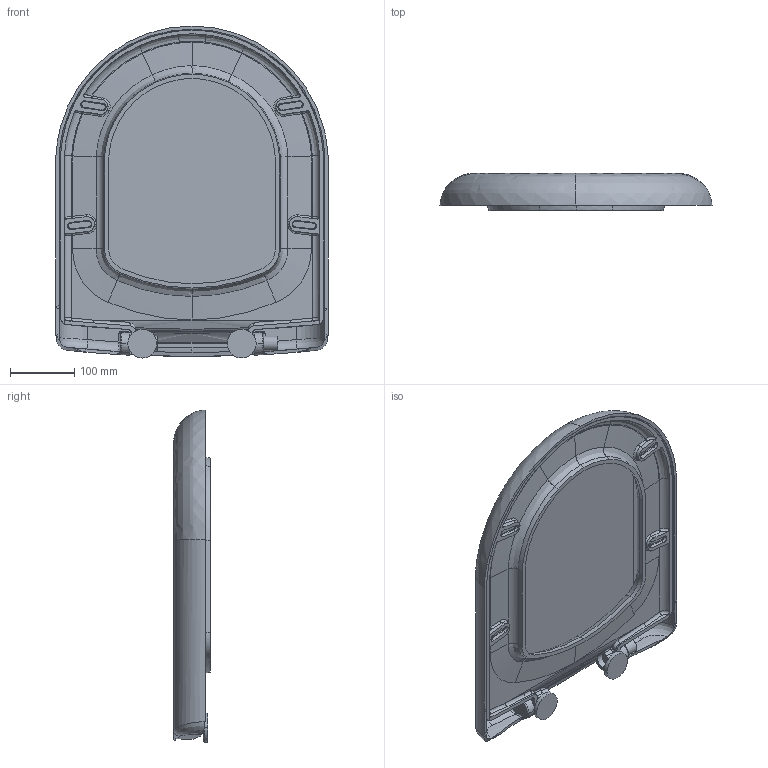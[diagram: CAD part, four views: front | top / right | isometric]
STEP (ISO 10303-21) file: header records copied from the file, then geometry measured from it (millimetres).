
FILE_DESCRIPTION (( 'STEP AP203' ), '1' );
FILE_NAME ('KC3661 GRANDE.STEP', '2018-08-10T07:19:35', ( '' ), ( '' ), 'SwSTEP 2.0', 'SolidWorks 2018', '' );
FILE_SCHEMA (( 'CONFIG_CONTROL_DESIGN' ));
Products named in the file (1): KC3661 GRANDE
Bounding box: 424 x 57.5 x 517.5 mm (x, y, z)
Volume: 2077381.7 mm3; surface area: 769589.3 mm2
Topology: 8 solids, 8 shells, 456 faces, 1134 edges, 695 vertices
Faces by surface type: bspline 214, cylinder 107, plane 88, torus 28, cone 19
Entity records: 40499 total; most frequent: CARTESIAN_POINT 31853, ORIENTED_EDGE 2252, EDGE_CURVE 1126, DIRECTION 1125, VERTEX_POINT 695, B_SPLINE_CURVE_WITH_KNOTS 548, EDGE_LOOP 471, FACE_OUTER_BOUND 456
